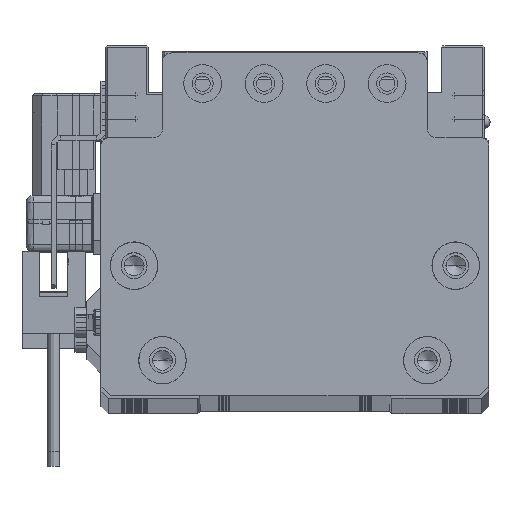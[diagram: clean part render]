
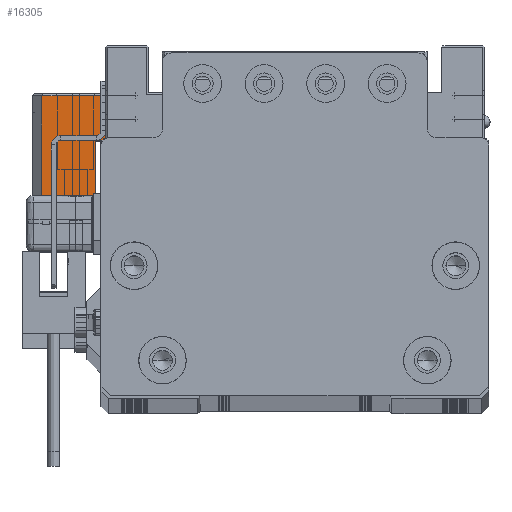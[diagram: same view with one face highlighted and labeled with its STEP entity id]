
A CAD part, top view. The second image highlights one B-rep face of the part: STEP entity #16305.
In plain terms, the highlighted planar face has unit normal (0, 0, 1) as drawn and (1, 0, 0) by its records, which use the part's own axes.
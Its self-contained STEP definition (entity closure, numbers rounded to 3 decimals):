
#3244 = VERTEX_POINT ( 'NONE', #24345 ) ;
#4359 = DIRECTION ( 'NONE',  ( 0., 0., 1. ) ) ;
#7801 = CARTESIAN_POINT ( 'NONE',  ( 17., 10.25, -2. ) ) ;
#10729 = EDGE_CURVE ( 'NONE', #43536, #24197, #49833, .T. ) ;
#13716 = CARTESIAN_POINT ( 'NONE',  ( 17., -10.75, -15.5 ) ) ;
#14198 = ORIENTED_EDGE ( 'NONE', *, *, #56476, .T. ) ;
#14214 = EDGE_CURVE ( 'NONE', #54053, #43536, #28755, .T. ) ;
#14250 = PLANE ( 'NONE',  #24577 ) ;
#15544 = EDGE_CURVE ( 'NONE', #3244, #54053, #64302, .T. ) ;
#16305 = ADVANCED_FACE ( 'NONE', ( #20369 ), #14250, .T. ) ;
#17213 = CARTESIAN_POINT ( 'NONE',  ( 17., -10.75, -13.3 ) ) ;
#19999 = VECTOR ( 'NONE', #67494, 1000. ) ;
#20009 = DIRECTION ( 'NONE',  ( 0., 0., -1. ) ) ;
#20369 = FACE_OUTER_BOUND ( 'NONE', #57241, .T. ) ;
#23375 = VECTOR ( 'NONE', #4359, 1000. ) ;
#23506 = ORIENTED_EDGE ( 'NONE', *, *, #15544, .F. ) ;
#24197 = VERTEX_POINT ( 'NONE', #68090 ) ;
#24345 = CARTESIAN_POINT ( 'NONE',  ( 17., 0.75, -15.5 ) ) ;
#24368 = CARTESIAN_POINT ( 'NONE',  ( 17., -10.75, -15.5 ) ) ;
#24577 = AXIS2_PLACEMENT_3D ( 'NONE', #24368, #52154, #20009 ) ;
#25376 = VECTOR ( 'NONE', #52531, 1000. ) ;
#28755 = LINE ( 'NONE', #17213, #48752 ) ;
#31448 = CARTESIAN_POINT ( 'NONE',  ( 17., 0.75, -15.5 ) ) ;
#35497 = ORIENTED_EDGE ( 'NONE', *, *, #68871, .T. ) ;
#35686 = VERTEX_POINT ( 'NONE', #7801 ) ;
#35740 = DIRECTION ( 'NONE',  ( 0., 1., 0. ) ) ;
#36724 = LINE ( 'NONE', #58752, #45433 ) ;
#43536 = VERTEX_POINT ( 'NONE', #52070 ) ;
#45433 = VECTOR ( 'NONE', #59099, 1000. ) ;
#48752 = VECTOR ( 'NONE', #68079, 1000. ) ;
#49052 = VERTEX_POINT ( 'NONE', #56780 ) ;
#49833 = LINE ( 'NONE', #67133, #19999 ) ;
#50025 = CARTESIAN_POINT ( 'NONE',  ( 17., 0.75, -13.3 ) ) ;
#52070 = CARTESIAN_POINT ( 'NONE',  ( 17., -10.75, -13.3 ) ) ;
#52154 = DIRECTION ( 'NONE',  ( 1., 0., 0. ) ) ;
#52531 = DIRECTION ( 'NONE',  ( 0., -1., 0. ) ) ;
#53242 = LINE ( 'NONE', #63355, #25376 ) ;
#53618 = ORIENTED_EDGE ( 'NONE', *, *, #14214, .F. ) ;
#54053 = VERTEX_POINT ( 'NONE', #50025 ) ;
#54818 = ORIENTED_EDGE ( 'NONE', *, *, #69181, .T. ) ;
#56476 = EDGE_CURVE ( 'NONE', #49052, #35686, #36724, .T. ) ;
#56780 = CARTESIAN_POINT ( 'NONE',  ( 17., 10.25, -15.5 ) ) ;
#57241 = EDGE_LOOP ( 'NONE', ( #35497, #14198, #54818, #63105, #53618, #23506 ) ) ;
#58752 = CARTESIAN_POINT ( 'NONE',  ( 17., 10.25, -15.5 ) ) ;
#59099 = DIRECTION ( 'NONE',  ( 0., 0., 1. ) ) ;
#63105 = ORIENTED_EDGE ( 'NONE', *, *, #10729, .F. ) ;
#63163 = LINE ( 'NONE', #13716, #71425 ) ;
#63355 = CARTESIAN_POINT ( 'NONE',  ( 17., -10.75, -2. ) ) ;
#64302 = LINE ( 'NONE', #31448, #23375 ) ;
#67133 = CARTESIAN_POINT ( 'NONE',  ( 17., -10.75, -15.5 ) ) ;
#67494 = DIRECTION ( 'NONE',  ( 0., 0., 1. ) ) ;
#68079 = DIRECTION ( 'NONE',  ( 0., -1., 0. ) ) ;
#68090 = CARTESIAN_POINT ( 'NONE',  ( 17., -10.75, -2. ) ) ;
#68871 = EDGE_CURVE ( 'NONE', #3244, #49052, #63163, .T. ) ;
#69181 = EDGE_CURVE ( 'NONE', #35686, #24197, #53242, .T. ) ;
#71425 = VECTOR ( 'NONE', #35740, 1000. ) ;
